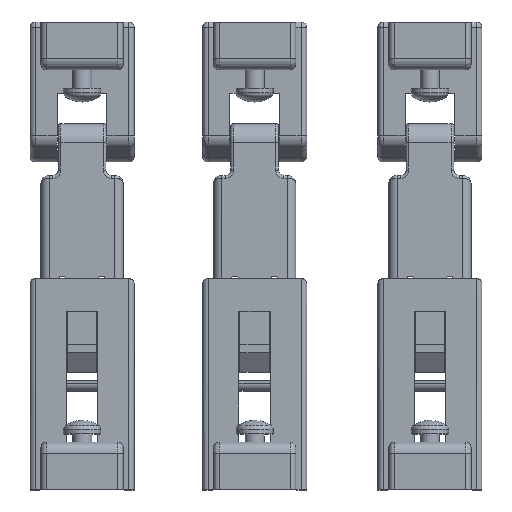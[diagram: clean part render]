
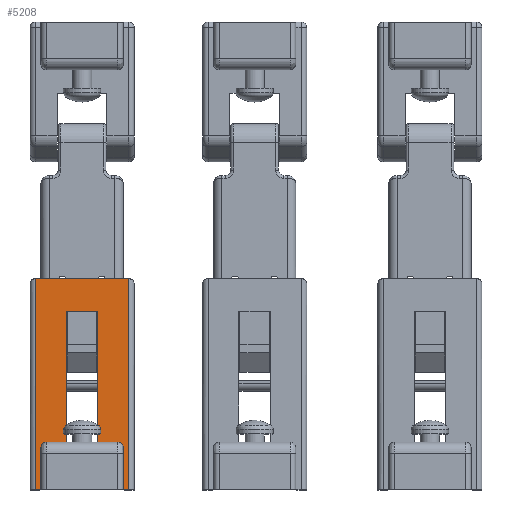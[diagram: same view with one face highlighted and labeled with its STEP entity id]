
A CAD part, top view. The second image highlights one B-rep face of the part: STEP entity #5208.
In plain terms, the highlighted planar face has unit normal (0, 0, 1).
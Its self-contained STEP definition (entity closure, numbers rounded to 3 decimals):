
#553=LINE('',#14304,#1373);
#558=LINE('',#14314,#1378);
#559=LINE('',#14317,#1379);
#560=LINE('',#14318,#1380);
#561=LINE('',#14320,#1381);
#562=LINE('',#14322,#1382);
#563=LINE('',#14326,#1383);
#564=LINE('',#14328,#1384);
#565=LINE('',#14330,#1385);
#566=LINE('',#14332,#1386);
#567=LINE('',#14334,#1387);
#568=LINE('',#14338,#1388);
#1373=VECTOR('',#11760,1.);
#1378=VECTOR('',#11767,1.);
#1379=VECTOR('',#11768,1.);
#1380=VECTOR('',#11769,1.);
#1381=VECTOR('',#11770,1.);
#1382=VECTOR('',#11771,1.);
#1383=VECTOR('',#11774,1.);
#1384=VECTOR('',#11775,1.);
#1385=VECTOR('',#11776,1.);
#1386=VECTOR('',#11777,1.);
#1387=VECTOR('',#11778,1.);
#1388=VECTOR('',#11781,1.);
#4654=PLANE('',#10713);
#4841=FACE_OUTER_BOUND('',#5692,.T.);
#5208=ADVANCED_FACE('',(#4841),#4654,.F.);
#5692=EDGE_LOOP('',(#6322,#6323,#6324,#6325,#6326,#6327,#6328,#6329,#6330,
#6331,#6332,#6333,#6334,#6335));
#6322=ORIENTED_EDGE('',*,*,#9067,.F.);
#6323=ORIENTED_EDGE('',*,*,#9068,.T.);
#6324=ORIENTED_EDGE('',*,*,#9062,.T.);
#6325=ORIENTED_EDGE('',*,*,#9069,.F.);
#6326=ORIENTED_EDGE('',*,*,#9070,.F.);
#6327=ORIENTED_EDGE('',*,*,#9071,.T.);
#6328=ORIENTED_EDGE('',*,*,#9072,.T.);
#6329=ORIENTED_EDGE('',*,*,#9073,.T.);
#6330=ORIENTED_EDGE('',*,*,#9074,.T.);
#6331=ORIENTED_EDGE('',*,*,#9075,.T.);
#6332=ORIENTED_EDGE('',*,*,#9076,.T.);
#6333=ORIENTED_EDGE('',*,*,#9077,.T.);
#6334=ORIENTED_EDGE('',*,*,#9078,.T.);
#6335=ORIENTED_EDGE('',*,*,#9079,.T.);
#8143=VERTEX_POINT('',#14303);
#8144=VERTEX_POINT('',#14305);
#8148=VERTEX_POINT('',#14315);
#8149=VERTEX_POINT('',#14316);
#8150=VERTEX_POINT('',#14319);
#8151=VERTEX_POINT('',#14321);
#8152=VERTEX_POINT('',#14323);
#8153=VERTEX_POINT('',#14325);
#8154=VERTEX_POINT('',#14327);
#8155=VERTEX_POINT('',#14329);
#8156=VERTEX_POINT('',#14331);
#8157=VERTEX_POINT('',#14333);
#8158=VERTEX_POINT('',#14335);
#8159=VERTEX_POINT('',#14337);
#9062=EDGE_CURVE('',#8144,#8143,#553,.T.);
#9067=EDGE_CURVE('',#8148,#8149,#558,.T.);
#9068=EDGE_CURVE('',#8148,#8144,#559,.T.);
#9069=EDGE_CURVE('',#8150,#8143,#560,.T.);
#9070=EDGE_CURVE('',#8151,#8150,#561,.T.);
#9071=EDGE_CURVE('',#8151,#8152,#562,.T.);
#9072=EDGE_CURVE('',#8152,#8153,#10242,.T.);
#9073=EDGE_CURVE('',#8153,#8154,#563,.T.);
#9074=EDGE_CURVE('',#8154,#8155,#564,.T.);
#9075=EDGE_CURVE('',#8155,#8156,#565,.T.);
#9076=EDGE_CURVE('',#8156,#8157,#566,.T.);
#9077=EDGE_CURVE('',#8157,#8158,#567,.T.);
#9078=EDGE_CURVE('',#8158,#8159,#10243,.T.);
#9079=EDGE_CURVE('',#8159,#8149,#568,.T.);
#10242=CIRCLE('',#10711,1.);
#10243=CIRCLE('',#10712,1.);
#10711=AXIS2_PLACEMENT_3D('',#14324,#11772,#11773);
#10712=AXIS2_PLACEMENT_3D('',#14336,#11779,#11780);
#10713=AXIS2_PLACEMENT_3D('',#14339,#11782,#11783);
#11760=DIRECTION('',(-1.,0.,0.));
#11767=DIRECTION('',(-1.,0.,0.));
#11768=DIRECTION('',(0.,1.,0.));
#11769=DIRECTION('',(0.,1.,0.));
#11770=DIRECTION('',(-1.,0.,0.));
#11771=DIRECTION('',(0.,1.,0.));
#11772=DIRECTION('',(0.,0.,-1.));
#11773=DIRECTION('',(-1.,0.,0.));
#11774=DIRECTION('',(1.,0.,0.));
#11775=DIRECTION('',(0.,1.,0.));
#11776=DIRECTION('',(1.,0.,0.));
#11777=DIRECTION('',(0.,-1.,0.));
#11778=DIRECTION('',(1.,0.,0.));
#11779=DIRECTION('',(0.,0.,-1.));
#11780=DIRECTION('',(0.,1.,0.));
#11781=DIRECTION('',(0.,-1.,0.));
#11782=DIRECTION('',(0.,0.,-1.));
#11783=DIRECTION('',(1.,0.,0.));
#14303=CARTESIAN_POINT('',(-1.,20.6,1.8));
#14304=CARTESIAN_POINT('',(16.,20.6,1.8));
#14305=CARTESIAN_POINT('',(16.,20.6,1.8));
#14314=CARTESIAN_POINT('',(16.,-18.,1.8));
#14315=CARTESIAN_POINT('',(16.,-18.,1.8));
#14316=CARTESIAN_POINT('',(15.,-18.,1.8));
#14317=CARTESIAN_POINT('',(16.,-18.,1.8));
#14318=CARTESIAN_POINT('',(-1.,-18.,1.8));
#14319=CARTESIAN_POINT('',(-1.,-18.,1.8));
#14320=CARTESIAN_POINT('',(0.,-18.,1.8));
#14321=CARTESIAN_POINT('',(0.,-18.,1.8));
#14322=CARTESIAN_POINT('',(0.,-18.,1.8));
#14323=CARTESIAN_POINT('',(0.,-10.3,1.8));
#14324=CARTESIAN_POINT('',(1.,-10.3,1.8));
#14325=CARTESIAN_POINT('',(1.,-9.3,1.8));
#14326=CARTESIAN_POINT('',(4.6,-9.3,1.8));
#14327=CARTESIAN_POINT('',(4.6,-9.3,1.8));
#14328=CARTESIAN_POINT('',(4.6,-9.3,1.8));
#14329=CARTESIAN_POINT('',(4.6,14.6,1.8));
#14330=CARTESIAN_POINT('',(4.6,14.6,1.8));
#14331=CARTESIAN_POINT('',(10.4,14.6,1.8));
#14332=CARTESIAN_POINT('',(10.4,-9.3,1.8));
#14333=CARTESIAN_POINT('',(10.4,-9.3,1.8));
#14334=CARTESIAN_POINT('',(14.,-9.3,1.8));
#14335=CARTESIAN_POINT('',(14.,-9.3,1.8));
#14336=CARTESIAN_POINT('',(14.,-10.3,1.8));
#14337=CARTESIAN_POINT('',(15.,-10.3,1.8));
#14338=CARTESIAN_POINT('',(15.,-18.,1.8));
#14339=CARTESIAN_POINT('',(17.,-18.,1.8));
